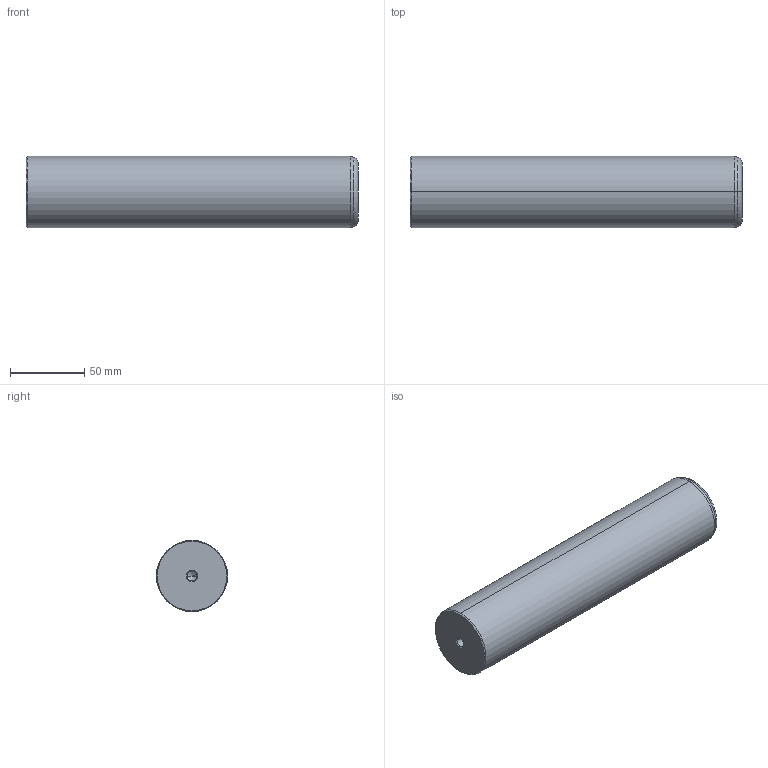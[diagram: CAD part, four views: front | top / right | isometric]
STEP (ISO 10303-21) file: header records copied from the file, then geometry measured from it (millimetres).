
FILE_DESCRIPTION(('CATIA V5 STEP Exchange'),'2;1');
FILE_NAME('C:\Users\Utente\Desktop\IO LAVORO\3D X SITO CF\X SITO\720\720-48x224.stp','2020-12-30T21:51:33+00:00',('none'),('none'),'CATIA Version 5 Release 20 GA (IN-10)','CATIA V5 STEP AP203','none');
FILE_SCHEMA(('CONFIG_CONTROL_DESIGN'));
Length unit declared in the file: millimetre
Products named in the file (1): 720-48x224
Bounding box: 224 x 48 x 48 mm (x, y, z)
Volume: 402830.3 mm3; surface area: 38005.8 mm2
Topology: 1 solids, 1 shells, 22 faces, 56 edges, 34 vertices
Faces by surface type: cone 12, cylinder 6, plane 2, torus 2
Entity records: 755 total; most frequent: CARTESIAN_POINT 216, ORIENTED_EDGE 104, DIRECTION 89, EDGE_CURVE 52, AXIS2_PLACEMENT_3D 50, VERTEX_POINT 34, CIRCLE 27, EDGE_LOOP 24
